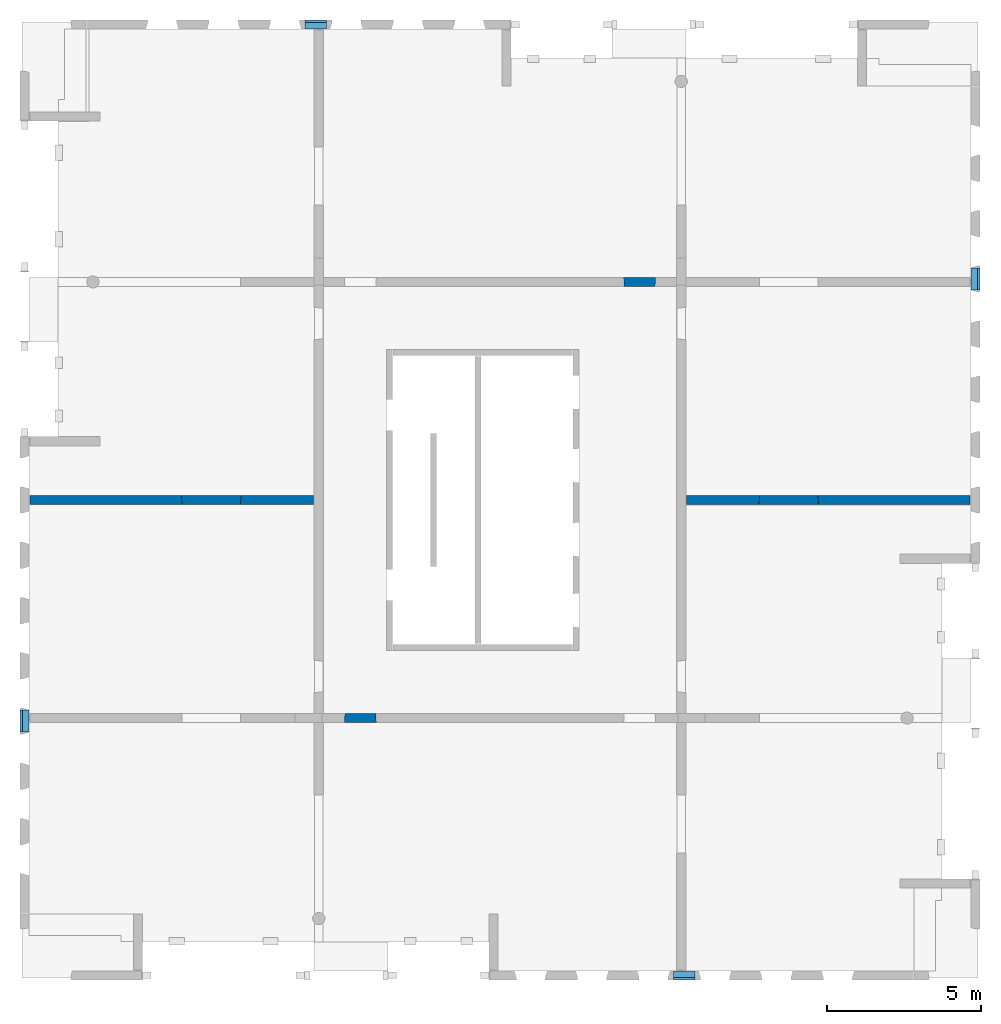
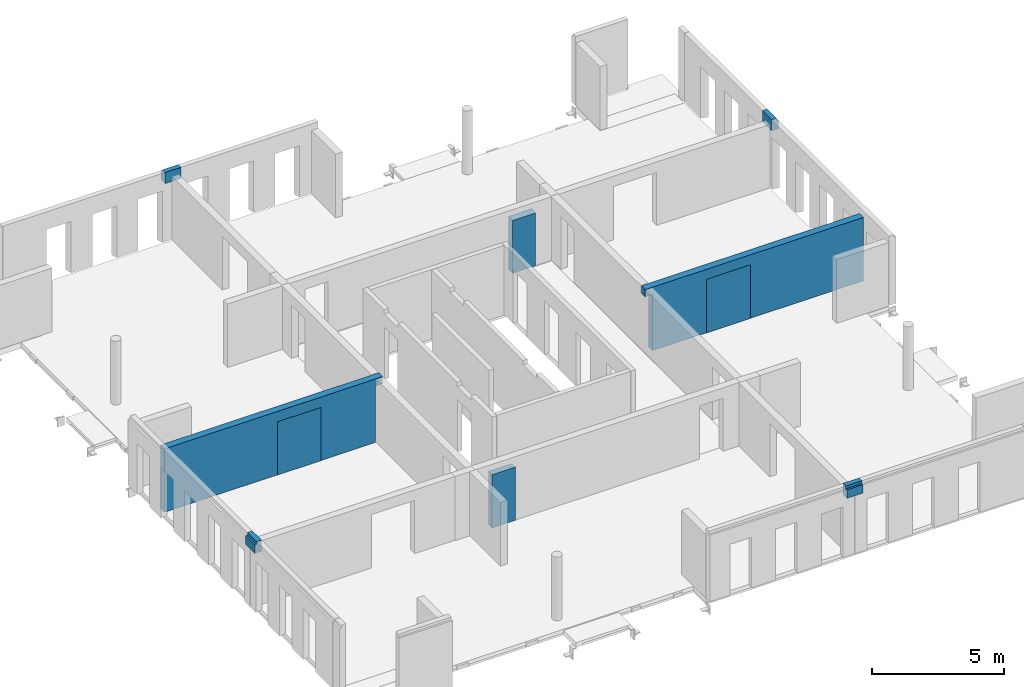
# One storey, part 5 of 6: 10 walls, 5 openings.
"""IFC2X3 building model written with IfcOpenShell, lengths in millimetres."""

import ifcopenshell
import ifcopenshell.guid

model = None  # the IFC model being written
_history = None  # IfcOwnerHistory: only IFC2X3 demands one
_inside = {}  # id of a spatial element -> (the spatial element, [elements in it])
_under = {}  # id of a project, library or spatial element -> (it, [spatial elements below it])
_declared = {}  # id of a project -> (the project, [libraries it declares])
_typed = {}  # id of a type object -> (the type object, [elements of that type])
_made_of = {}  # id of a material, layer set ... -> (it, [elements and type objects made of it])


def new_model(schema):
    """Start an empty IFC model of exactly this schema.

    Asked for "IFC4X3", IfcOpenShell would pick the latest addendum, in which some entities
    have other attributes; the version numbers below select the first issue.
    IFC2X3 requires an IfcOwnerHistory on every rooted entity: one is made here for all.
    """
    global model, _history
    if schema == "IFC4X3":
        model = ifcopenshell.file(schema_version=(4, 3, 0, 0))
    else:
        model = ifcopenshell.file(schema=schema)
    _inside.clear()
    _under.clear()
    _declared.clear()
    _typed.clear()
    _made_of.clear()
    _history = None
    if model.schema == "IFC2X3":
        org = make("IfcOrganization", Name="unknown")
        user = make(
            "IfcPersonAndOrganization",
            ThePerson=make("IfcPerson", FamilyName="unknown"),
            TheOrganization=org,
        )
        app = make(
            "IfcApplication",
            ApplicationDeveloper=org,
            Version="unknown",
            ApplicationFullName="unknown",
            ApplicationIdentifier="unknown",
        )
        _history = make(
            "IfcOwnerHistory",
            OwningUser=user,
            OwningApplication=app,
            ChangeAction="ADDED",
            CreationDate=0,
        )
    return model


def make(cls, **values):
    """One entity of the class cls with the attributes given. An attribute that is None is left unset."""
    return model.create_entity(
        cls, **{name: value for name, value in values.items() if value is not None}
    )


def entity(cls, *values):
    """Any entity or typed value of the class cls, its attributes in the order of the schema. None: left unset."""
    e = model.create_entity(cls)
    for i, value in enumerate(values):
        if value is not None:
            e[i] = value
    return e


def rooted(cls, **values):
    """An entity with a GlobalId (a new one), such as an element, a storey or a relation."""
    return make(cls, GlobalId=ifcopenshell.guid.new(), OwnerHistory=_history, **values)


def si_unit(unit_type, name, prefix=None):
    """IfcSIUnit, for example si_unit("LENGTHUNIT", "METRE", prefix="MILLI")."""
    return make("IfcSIUnit", UnitType=unit_type, Prefix=prefix, Name=name)


def converted_unit(unit_type, name, factor, base, dimensions=None, offset=None):
    """IfcConversionBasedUnit, such as the inch: factor (a typed value) times the base unit."""
    return make(
        "IfcConversionBasedUnit"
        if offset is None
        else "IfcConversionBasedUnitWithOffset",
        ConversionOffset=offset,
        Dimensions=None
        if dimensions is None
        else entity("IfcDimensionalExponents", *dimensions),
        UnitType=unit_type,
        Name=name,
        ConversionFactor=make(
            "IfcMeasureWithUnit", ValueComponent=factor, UnitComponent=base
        ),
    )


def derived_unit(unit_type, elements):
    """IfcDerivedUnit: a product of units, each with its exponent."""
    return make(
        "IfcDerivedUnit",
        Elements=[
            make("IfcDerivedUnitElement", Unit=unit, Exponent=power)
            for unit, power in elements
        ],
        UnitType=unit_type,
    )


def assignment(units):
    """IfcUnitAssignment: the units of a project."""
    return None if units is None else make("IfcUnitAssignment", Units=units)


def point(xyz):
    """IfcCartesianPoint."""
    return None if xyz is None else make("IfcCartesianPoint", Coordinates=xyz)


def direction(xyz):
    """IfcDirection."""
    return None if xyz is None else make("IfcDirection", DirectionRatios=xyz)


def frame(location, z_axis=None, x_axis=None):
    """IfcAxis2Placement3D, a coordinate frame: its origin and axes. An axis left out is left unset."""
    return make(
        "IfcAxis2Placement3D",
        Location=point(location),
        Axis=direction(z_axis),
        RefDirection=direction(x_axis),
    )


def frame_2d(location, x_axis=None):
    """IfcAxis2Placement2D, a coordinate frame in the plane: its origin and x axis."""
    return make(
        "IfcAxis2Placement2D", Location=point(location), RefDirection=direction(x_axis)
    )


def origin():
    """The frame at (0, 0, 0) with its axes left unset."""
    return frame((0.0, 0.0, 0.0))


def origin_2d_with_axis():
    """The frame at (0, 0) in the plane with the x axis (1, 0) written out."""
    return frame_2d((0.0, 0.0), x_axis=(1.0, 0.0))


def place(relative_to, where):
    """IfcLocalPlacement: puts the frame where relative to a parent placement (None: the world)."""
    return make(
        "IfcLocalPlacement", PlacementRelTo=relative_to, RelativePlacement=where
    )


def context(
    kind, dimensions, precision=None, world=None, true_north=None, identifier=None
):
    """IfcGeometricRepresentationContext, for example the 3D "Model" context."""
    return make(
        "IfcGeometricRepresentationContext",
        ContextIdentifier=identifier,
        ContextType=kind,
        CoordinateSpaceDimension=dimensions,
        Precision=precision,
        WorldCoordinateSystem=world,
        TrueNorth=true_north,
    )


def subcontext(parent, identifier, kind, view, scale=None):
    """IfcGeometricRepresentationSubContext, for example "Body" below "Model"."""
    return make(
        "IfcGeometricRepresentationSubContext",
        ContextIdentifier=identifier,
        ContextType=kind,
        ParentContext=parent,
        TargetScale=scale,
        TargetView=view,
    )


def project(units=None, contexts=None):
    """IfcProject with its units and contexts."""
    return rooted(
        "IfcProject",
        Name="project",
        RepresentationContexts=contexts,
        UnitsInContext=assignment(units),
    )


def spatial(cls, under=None, at=None, **own):
    """A site, building, storey or space (cls), placed at a placement, below another one or the project."""
    s = rooted(cls, ObjectPlacement=at, **own)
    if under is not None:
        _under.setdefault(under.id(), (under, []))[1].append(s)
    return s


def polyline(points):
    """IfcPolyline through the points."""
    return make("IfcPolyline", Points=[point(p) for p in points])


def profile(cls, at=None, kind="AREA", **sizes):
    """A parametric profile (cls). Its sizes go by their IFC names, for example OverallWidth=200.0."""
    return make(cls, ProfileType=kind, Position=at, **sizes)


def rectangle(**sizes):
    """IfcRectangleProfileDef."""
    return profile("IfcRectangleProfileDef", **sizes)


def outline(outer, holes=None, kind="AREA"):
    """IfcArbitraryClosedProfileDef: a profile drawn as a closed curve; with holes, ...WithVoids."""
    if holes is None:
        return make("IfcArbitraryClosedProfileDef", ProfileType=kind, OuterCurve=outer)
    return make(
        "IfcArbitraryProfileDefWithVoids",
        ProfileType=kind,
        OuterCurve=outer,
        InnerCurves=holes,
    )


def extrude(swept, where, along, depth):
    """IfcExtrudedAreaSolid: the profile swept, set in the frame where, extruded along a direction by depth."""
    return make(
        "IfcExtrudedAreaSolid",
        SweptArea=swept,
        Position=where,
        ExtrudedDirection=direction(along),
        Depth=depth,
    )


def faces_of(points, faces, orient=None, outer=None):
    """IfcFace entities. A face is a list of loops; a loop is a list of indices into points, from 0.

    orient and outer hold one flag for each loop. By default every Orientation is true, the
    first loop of a face is its IfcFaceOuterBound and the others are IfcFaceBound.
    """
    made = []
    for i, loops in enumerate(faces):
        bounds = []
        for j, loop in enumerate(loops):
            is_outer = j == 0 if outer is None else outer[i][j]
            bounds.append(
                make(
                    "IfcFaceOuterBound" if is_outer else "IfcFaceBound",
                    Bound=make("IfcPolyLoop", Polygon=[points[k] for k in loop]),
                    Orientation=True if orient is None else orient[i][j],
                )
            )
        made.append(make("IfcFace", Bounds=bounds))
    return made


def faceted_brep(points, faces, orient=None, outer=None, voids=None):
    """IfcFacetedBrep: a solid bounded by flat faces; with voids (closed shells), ...WithVoids."""
    shared = [point(p) for p in points]
    hull = make("IfcClosedShell", CfsFaces=faces_of(shared, faces, orient, outer))
    if voids is None:
        return make("IfcFacetedBrep", Outer=hull)
    return make(
        "IfcFacetedBrepWithVoids",
        Outer=hull,
        Voids=[
            make(cls, CfsFaces=faces_of(shared, fs, o, b)) for cls, fs, o, b in voids
        ],
    )


def shape(context_of_items, identifier, shape_type, items):
    """IfcShapeRepresentation: the items that make up one representation, for example the "Body"."""
    return make(
        "IfcShapeRepresentation",
        ContextOfItems=context_of_items,
        RepresentationIdentifier=identifier,
        RepresentationType=shape_type,
        Items=items,
    )


def material(Name=None, Category=None):
    """IfcMaterial."""
    return make("IfcMaterial", Name=Name, Category=Category)


def layer(
    of_material, thickness, ventilated=None, Name=None, Category=None, Priority=None
):
    """IfcMaterialLayer: one layer of a wall or slab, of a material (None: an air gap)."""
    return make(
        "IfcMaterialLayer",
        Material=of_material,
        LayerThickness=thickness,
        IsVentilated=ventilated,
        Name=Name,
        Category=Category,
        Priority=Priority,
    )


def layer_set(layers, Name=None):
    """IfcMaterialLayerSet."""
    return make("IfcMaterialLayerSet", MaterialLayers=layers, LayerSetName=Name)


def layer_usage(for_layer_set, set_direction, sense, offset, extent=None):
    """IfcMaterialLayerSetUsage: how a layer set lies in its element."""
    return make(
        "IfcMaterialLayerSetUsage",
        ForLayerSet=for_layer_set,
        LayerSetDirection=set_direction,
        DirectionSense=sense,
        OffsetFromReferenceLine=offset,
        ReferenceExtent=extent,
    )


def made_of(thing, what):
    """Note that an element or type object is made of a material, layer set ...; save() writes the relation."""
    if what is not None:
        _made_of.setdefault(what.id(), (what, []))[1].append(thing)
    return thing


def type_object(cls, material=None, **own):
    """A type object (cls), such as IfcWallType, which elements share."""
    return made_of(rooted(cls, **own), material)


def element(
    cls,
    number,
    at=None,
    inside=None,
    cuts=None,
    type_object=None,
    material=None,
    context=None,
    identifier="Body",
    shape_type=None,
    held_by="IfcProductDefinitionShape",
    body=None,
    shapes=None,
    **own,
):
    """One element of the class cls, such as IfcWall. Its Tag is "e" and its number.

    at: its placement. inside: the storey or other place that contains it. cuts: it is an
    opening in that element (IfcRelVoidsElement). A single representation is given by context,
    identifier, shape_type and body (its items); several are given by shapes. held_by: the class
    of the entity that holds the representations. save() writes the other relations.
    """
    e = rooted(cls, Tag="e%d" % number, ObjectPlacement=at, **own)
    if body is not None:
        shapes = [shape(context, identifier, shape_type, body)]
    if shapes is not None:
        e.Representation = make(held_by, Representations=shapes)
    if inside is not None:
        _inside.setdefault(inside.id(), (inside, []))[1].append(e)
    if cuts is not None:
        rooted(
            "IfcRelVoidsElement", RelatingBuildingElement=cuts, RelatedOpeningElement=e
        )
    if type_object is not None:
        _typed.setdefault(type_object.id(), (type_object, []))[1].append(e)
    return made_of(e, material)


def aggregate(whole, parts):
    """IfcRelAggregates: a whole, such as a stair, and the parts it consists of."""
    return rooted("IfcRelAggregates", RelatingObject=whole, RelatedObjects=parts)


def save(model, path):
    """Write the relations noted so far, then the file.

    IfcRelAggregates (storeys below a building ...), IfcRelContainedInSpatialStructure (elements
    in a storey), IfcRelDefinesByType, IfcRelAssociatesMaterial and IfcRelDeclares: one each for
    every whole, place, type object, material and project.
    """
    for whole, parts in _under.values():
        aggregate(whole, parts)
    for where, things in _inside.values():
        rooted(
            "IfcRelContainedInSpatialStructure",
            RelatedElements=things,
            RelatingStructure=where,
        )
    for kind, things in _typed.values():
        rooted("IfcRelDefinesByType", RelatedObjects=things, RelatingType=kind)
    for what, things in _made_of.values():
        rooted("IfcRelAssociatesMaterial", RelatedObjects=things, RelatingMaterial=what)
    for by, libraries in _declared.values():
        rooted("IfcRelDeclares", RelatingContext=by, RelatedDefinitions=libraries)
    model.write(path)


model = new_model("IFC2X3")

# Units and contexts
model_context = context("Model", 3, precision=0.01, world=origin(), true_north=direction((6.12303176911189e-17, 1.0)))
body_context = subcontext(model_context, "Body", "Model", "MODEL_VIEW")
ifc_project = project(units=[si_unit("LENGTHUNIT", "METRE", prefix="MILLI"), si_unit("AREAUNIT", "SQUARE_METRE"), si_unit("VOLUMEUNIT", "CUBIC_METRE"), converted_unit("PLANEANGLEUNIT", "DEGREE", entity("IfcRatioMeasure", 0.0174532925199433), si_unit("PLANEANGLEUNIT", "RADIAN"), dimensions=[0, 0, 0, 0, 0, 0, 0]), si_unit("MASSUNIT", "GRAM", prefix="KILO"), derived_unit("MASSDENSITYUNIT", [(si_unit("MASSUNIT", "GRAM", prefix="KILO"), 1), (si_unit("LENGTHUNIT", "METRE"), -3)]), si_unit("TIMEUNIT", "SECOND"), si_unit("FREQUENCYUNIT", "HERTZ"), si_unit("THERMODYNAMICTEMPERATUREUNIT", "DEGREE_CELSIUS"), derived_unit("THERMALTRANSMITTANCEUNIT", [(si_unit("MASSUNIT", "GRAM", prefix="KILO"), 1), (si_unit("THERMODYNAMICTEMPERATUREUNIT", "KELVIN"), -1), (si_unit("TIMEUNIT", "SECOND"), -3)]), derived_unit("VOLUMETRICFLOWRATEUNIT", [(si_unit("LENGTHUNIT", "METRE"), 3), (si_unit("TIMEUNIT", "SECOND"), -1)]), si_unit("ELECTRICCURRENTUNIT", "AMPERE"), si_unit("ELECTRICVOLTAGEUNIT", "VOLT"), si_unit("POWERUNIT", "WATT"), si_unit("FORCEUNIT", "NEWTON", prefix="KILO"), si_unit("ILLUMINANCEUNIT", "LUX"), si_unit("LUMINOUSFLUXUNIT", "LUMEN"), si_unit("LUMINOUSINTENSITYUNIT", "CANDELA"), derived_unit("USERDEFINED", [(si_unit("MASSUNIT", "GRAM", prefix="KILO"), -1), (si_unit("LENGTHUNIT", "METRE"), -2), (si_unit("TIMEUNIT", "SECOND"), 3), (si_unit("LUMINOUSFLUXUNIT", "LUMEN"), 1)]), derived_unit("LINEARVELOCITYUNIT", [(si_unit("LENGTHUNIT", "METRE"), 1), (si_unit("TIMEUNIT", "SECOND"), -1)]), si_unit("PRESSUREUNIT", "PASCAL"), derived_unit("USERDEFINED", [(si_unit("LENGTHUNIT", "METRE"), -2), (si_unit("MASSUNIT", "GRAM", prefix="KILO"), 1), (si_unit("TIMEUNIT", "SECOND"), -2)])], contexts=[model_context])

# Site, building, storey
site_placement = place(None, origin())
site = spatial("IfcSite", under=ifc_project, at=site_placement, Name="Default", CompositionType="ELEMENT")
building_placement = place(site_placement, origin())
building = spatial("IfcBuilding", under=site, at=building_placement, Name="niet gebruiken", CompositionType="ELEMENT")
storey_placement = place(building_placement, frame((0.0, 0.0, 161820.0)))
storey = spatial("IfcBuildingStorey", under=building, at=storey_placement, Name="52 tweeënvijftigste verdieping", CompositionType="ELEMENT", Elevation=161820.0)

# Walls
ifc_material_1 = material(Name="NLRS_f2_beton prefab")
ifc_layer_1 = layer(ifc_material_1, 300.0)
ifc_layer_set_1 = layer_set([ifc_layer_1], Name="Basic Wall:NLRS_22.21_WA_beton prefab d=300_gen")
wall_type_1 = type_object("IfcWallType", Name="Basic Wall:NLRS_22.21_WA_beton prefab d=300_gen", PredefinedType="STANDARD", material=ifc_layer_set_1)
wall_1_placement = place(storey_placement, frame((157060.0, 17500.0, -60.0), z_axis=(0.0, 0.0, 1.0), x_axis=(-1.0, 0.0, 0.0)))
element("IfcWall", 1, at=wall_1_placement, inside=storey, type_object=wall_type_1, Name="Basic Wall:NLRS_22.21_WA_beton prefab d=300_gen", ObjectType="Basic Wall:NLRS_22.21_WA_beton prefab d=300_gen", context=body_context, shape_type="Brep", body=[
    faceted_brep([(9560.0, -150.0, 2610.0), (9560.0, -150.0, 2940.0), (0.0, -150.0, 2940.0), (0.0, -150.0, 0.0), (4960.0, -150.0, 0.0), (4960.0, -150.0, 2460.0), (6860.0, -150.0, 2460.0), (6860.0, -150.0, 0.0), (9240.0, -150.0, 0.0), (9240.0, -150.0, 2610.0), (9560.0, 150.0, 2940.0), (9560.0, 150.0, 2610.0), (9240.0, 150.0, 2610.0), (9240.0, 150.0, 0.0), (6878.0, 150.0, 0.0), (6878.0, 150.0, 2478.0), (4942.0, 150.0, 2478.0), (4942.0, 150.0, 0.0), (0.0, 150.0, 0.0), (0.0, 150.0, 2940.0)], [[[0, 1, 2, 3, 4, 5, 6, 7, 8, 9]], [[10, 11, 12, 13, 14, 15, 16, 17, 18, 19]], [[4, 3, 18, 17]], [[1, 0, 11, 10]], [[2, 1, 10, 19]], [[3, 2, 19, 18]], [[9, 8, 13, 12]], [[0, 9, 12, 11]], [[6, 15, 14, 7]], [[16, 5, 4, 17]], [[15, 6, 5, 16]], [[8, 7, 14, 13]]]),
])
wall_2_placement = place(storey_placement, frame((126440.0, 17500.0, -60.0)))
element("IfcWall", 2, at=wall_2_placement, inside=storey, type_object=wall_type_1, Name="Basic Wall:NLRS_22.21_WA_beton prefab d=300_gen", ObjectType="Basic Wall:NLRS_22.21_WA_beton prefab d=300_gen", context=body_context, shape_type="Brep", body=[
    faceted_brep([(9560.0, -150.0, 2610.0), (9560.0, -150.0, 2940.0), (0.0, -150.0, 2940.0), (0.0, -150.0, 0.0), (4960.0, -150.0, 0.0), (4960.0, -150.0, 2460.0), (6860.0, -150.0, 2460.0), (6860.0, -150.0, 0.0), (9240.0, -150.0, 0.0), (9240.0, -150.0, 2610.0), (9560.0, 150.0, 2940.0), (9560.0, 150.0, 2610.0), (9240.0, 150.0, 2610.0), (9240.0, 150.0, 0.0), (6878.0, 150.0, 0.0), (6878.0, 150.0, 2478.0), (4942.0, 150.0, 2478.0), (4942.0, 150.0, 0.0), (0.0, 150.0, 0.0), (0.0, 150.0, 2940.0)], [[[0, 1, 2, 3, 4, 5, 6, 7, 8, 9]], [[10, 11, 12, 13, 14, 15, 16, 17, 18, 19]], [[4, 3, 18, 17]], [[1, 0, 11, 10]], [[2, 1, 10, 19]], [[3, 2, 19, 18]], [[9, 8, 13, 12]], [[0, 9, 12, 11]], [[6, 15, 14, 7]], [[16, 5, 4, 17]], [[15, 6, 5, 16]], [[8, 7, 14, 13]]]),
])

# Wall, opening
ifc_material_2 = material(Name="NLRS_f2_beton ihwg")
ifc_layer_2 = layer(ifc_material_2, 300.0)
ifc_layer_set_2 = layer_set([ifc_layer_2], Name="Basic Wall:NLRS_21.21_WA_beton ihwg d=300_gen")
ifc_layer_usage_1 = layer_usage(ifc_layer_set_2, "AXIS2", "NEGATIVE", 150.0)
wall_type_2 = type_object("IfcWallType", Name="Basic Wall:NLRS_21.21_WA_beton ihwg d=300_gen", PredefinedType="STANDARD", material=ifc_layer_set_2)
wall_3_placement = place(storey_placement, frame((135395.0, 32980.0, 2635.0)))
wall_3 = element("IfcWallStandardCase", 3, at=wall_3_placement, inside=storey, type_object=wall_type_2, material=ifc_layer_usage_1, Name="Basic Wall:NLRS_21.21_WA_beton ihwg d=300_gen", ObjectType="Basic Wall:NLRS_21.21_WA_beton ihwg d=300_gen", context=body_context, shape_type="SweptSolid", body=[
    extrude(rectangle(XDim=710.000000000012, YDim=300.000000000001, at=frame_2d((355.000000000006, 0.0), x_axis=(-1.0, 0.0))), origin(), (0.0, 0.0, 1.0), 514.999999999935),
])
opening_1_placement = place(wall_3_placement, origin())
element("IfcOpeningElement", 4, at=opening_1_placement, cuts=wall_3, Name="Basic Wall:NLRS_21.21_WA_beton ihwg d=300_gen", ObjectType="Recess", context=body_context, shape_type="SweptSolid", body=[
    extrude(rectangle(XDim=124.999999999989, YDim=27940.0, at=origin_2d_with_axis()), frame((6355.0, 66.0, 452.499999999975), z_axis=(0.0, 1.0, 0.0), x_axis=(0.0, 0.0, -1.0)), (0.0, 0.0, 1.0), 83.9999999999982),
])

# Wall, openings
ifc_layer_usage_2 = layer_usage(ifc_layer_set_2, "AXIS2", "NEGATIVE", 150.0)
wall_4_placement = place(storey_placement, frame((148105.0, 2020.0, 2635.0), z_axis=(0.0, 0.0, 1.0), x_axis=(-1.0, 0.0, 0.0)))
wall_4 = element("IfcWallStandardCase", 5, at=wall_4_placement, inside=storey, type_object=wall_type_2, material=ifc_layer_usage_2, Name="Basic Wall:NLRS_21.21_WA_beton ihwg d=300_gen", ObjectType="Basic Wall:NLRS_21.21_WA_beton ihwg d=300_gen", context=body_context, shape_type="SweptSolid", body=[
    extrude(rectangle(XDim=710.000000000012, YDim=300.0, at=frame_2d((355.000000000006, -1.4210854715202e-14), x_axis=(-1.0, 0.0))), origin(), (0.0, 0.0, 1.0), 514.999999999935),
])
opening_2_placement = place(wall_4_placement, origin())
element("IfcOpeningElement", 6, at=opening_2_placement, cuts=wall_4, Name="Basic Wall:NLRS_21.21_WA_beton ihwg d=300_gen", ObjectType="Opening", context=body_context, shape_type="SweptSolid", body=[
    extrude(outline(polyline([(-1961.66666666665, -4851.6666666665), (1238.33333333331, -4851.6666666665), (1238.33333333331, 2253.33333333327), (723.333333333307, 2253.33333333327), (723.333333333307, 2598.33333333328), (-1961.66666666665, 2598.33333333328), (-1961.66666666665, -4851.6666666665)])), frame((-2253.33333333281, -302.4, -723.333333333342), z_axis=(0.0, 1.0, 0.0), x_axis=(0.0, 0.0, 1.0)), (0.0, 0.0, 1.0), 604.8),
])
opening_3_placement = place(wall_4_placement, origin())
element("IfcOpeningElement", 7, at=opening_3_placement, cuts=wall_4, Name="Basic Wall:NLRS_21.21_WA_beton ihwg d=300_gen", ObjectType="Recess", context=body_context, shape_type="SweptSolid", body=[
    extrude(rectangle(XDim=124.999999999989, YDim=27940.0, at=origin_2d_with_axis()), frame((6355.0, 66.0, 452.500000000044), z_axis=(0.0, 1.0, 0.0), x_axis=(0.0, 0.0, -1.0)), (0.0, 0.0, 1.0), 84.0000000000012),
])

# Wall, opening
ifc_layer_usage_3 = layer_usage(ifc_layer_set_2, "AXIS2", "NEGATIVE", 150.0)
wall_5_placement = place(storey_placement, frame((126270.0, 9945.0, 2635.0), z_axis=(0.0, 0.0, 1.0), x_axis=(0.0, 1.0, 0.0)))
wall_5 = element("IfcWallStandardCase", 8, at=wall_5_placement, inside=storey, type_object=wall_type_2, material=ifc_layer_usage_3, Name="Basic Wall:NLRS_21.21_WA_beton ihwg d=300_gen", ObjectType="Basic Wall:NLRS_21.21_WA_beton ihwg d=300_gen", context=body_context, shape_type="SweptSolid", body=[
    extrude(rectangle(XDim=709.999999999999, YDim=300.000000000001, at=frame_2d((354.999999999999, 0.0), x_axis=(-1.0, 0.0))), origin(), (0.0, 0.0, 1.0), 514.999999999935),
])
opening_4_placement = place(wall_5_placement, origin())
element("IfcOpeningElement", 9, at=opening_4_placement, cuts=wall_5, Name="Basic Wall:NLRS_21.21_WA_beton ihwg d=300_gen", ObjectType="Recess", context=body_context, shape_type="SweptSolid", body=[
    extrude(rectangle(XDim=124.999999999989, YDim=27940.0, at=frame_2d((0.0, 2.72848410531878e-12), x_axis=(1.0, 0.0))), frame((7555.0, 66.0, 452.499999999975), z_axis=(0.0, 1.0, 0.0), x_axis=(0.0, 0.0, -1.0)), (0.0, 0.0, 1.0), 84.0000000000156),
])

ifc_layer_usage_4 = layer_usage(ifc_layer_set_2, "AXIS2", "NEGATIVE", 150.0)
wall_6_placement = place(storey_placement, frame((157230.0, 25055.0, 2635.0), z_axis=(0.0, 0.0, 1.0), x_axis=(0.0, -1.0, 0.0)))
wall_6 = element("IfcWallStandardCase", 10, at=wall_6_placement, inside=storey, type_object=wall_type_2, material=ifc_layer_usage_4, Name="Basic Wall:NLRS_21.21_WA_beton ihwg d=300_gen", ObjectType="Basic Wall:NLRS_21.21_WA_beton ihwg d=300_gen", context=body_context, shape_type="SweptSolid", body=[
    extrude(rectangle(XDim=709.999999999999, YDim=300.000000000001, at=frame_2d((354.999999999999, 9.9475983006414e-13), x_axis=(-1.0, 0.0))), origin(), (0.0, 0.0, 1.0), 514.999999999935),
])
opening_5_placement = place(wall_6_placement, origin())
element("IfcOpeningElement", 11, at=opening_5_placement, cuts=wall_6, Name="Basic Wall:NLRS_21.21_WA_beton ihwg d=300_gen", ObjectType="Recess", context=body_context, shape_type="SweptSolid", body=[
    extrude(rectangle(XDim=124.999999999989, YDim=27940.0, at=frame_2d((0.0, 4.54747350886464e-12), x_axis=(1.0, 0.0))), frame((7555.0, 66.0, 452.50000000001), z_axis=(0.0, 1.0, 0.0), x_axis=(0.0, 0.0, -1.0)), (0.0, 0.0, 1.0), 83.9999999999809),
])

# Walls
ifc_material_3 = material(Name="NLRS_f2_beton prefab dichtstorten")
wall_type_3 = type_object("IfcWallType", Name="Parametric Wall:NLRS_22.21_WA_beton prefab d=500 1900x2470_gen", PredefinedType="NOTDEFINED", material=ifc_material_3)
wall_7_placement = place(storey_placement, frame((131382.0, 17350.0, -70.0)))
element("IfcWall", 12, at=wall_7_placement, inside=storey, type_object=wall_type_3, material=ifc_material_3, Name="Parametric Wall:NLRS_22.21_WA_beton prefab d=500 1900x2470_gen", ObjectType="Parametric Wall:NLRS_22.21_WA_beton prefab d=500 1900x2470_gen", context=body_context, shape_type="Brep", body=[
    faceted_brep([(1936.0, 300.0, 2488.0), (1936.0, 300.0, 10.0), (1936.0, 300.0, 0.0), (0.0, 300.0, 0.0), (0.0, 300.0, 10.0), (0.0, 300.0, 2488.0), (1918.0, 0.0, 2470.0), (18.0, 0.0, 2470.0), (18.0, 0.0, 10.0), (18.0, 0.0, 0.0), (1918.0, 0.0, 0.0), (1918.0, 0.0, 10.0)], [[[0, 1, 2, 3, 4, 5]], [[6, 7, 8, 9, 10, 11]], [[6, 11, 10, 2, 1, 0]], [[10, 9, 3, 2]], [[9, 8, 7, 5, 4, 3]], [[7, 6, 0, 5]]]),
])
wall_8_placement = place(storey_placement, frame((150182.0, 17350.0, -70.0)))
element("IfcWall", 13, at=wall_8_placement, inside=storey, type_object=wall_type_3, material=ifc_material_3, Name="Parametric Wall:NLRS_22.21_WA_beton prefab d=500 1900x2470_gen", ObjectType="Parametric Wall:NLRS_22.21_WA_beton prefab d=500 1900x2470_gen", context=body_context, shape_type="Brep", body=[
    faceted_brep([(0.0, 0.0, 2488.0), (0.0, 0.0, 10.0), (0.0, 0.0, 0.0), (1936.0, 0.0, 0.0), (1936.0, 0.0, 10.0), (1936.0, 0.0, 2488.0), (18.0, 300.0, 2470.0), (1918.0, 300.0, 2470.0), (1918.0, 300.0, 10.0), (1918.0, 300.0, 0.0), (18.0, 300.0, 0.0), (18.0, 300.0, 10.0)], [[[0, 1, 2, 3, 4, 5]], [[6, 7, 8, 9, 10, 11]], [[6, 11, 10, 2, 1, 0]], [[10, 9, 3, 2]], [[9, 8, 7, 5, 4, 3]], [[7, 6, 0, 5]]]),
])
wall_type_4 = type_object("IfcWallType", Name="Parametric Wall:NLRS_22.21_WA_beton prefab d=500 1006x2448_gen", PredefinedType="NOTDEFINED", material=ifc_material_3)
wall_9_placement = place(storey_placement, frame((136682.0, 10250.0, -70.0)))
element("IfcWall", 14, at=wall_9_placement, inside=storey, type_object=wall_type_4, material=ifc_material_3, Name="Parametric Wall:NLRS_22.21_WA_beton prefab d=500 1006x2448_gen", ObjectType="Parametric Wall:NLRS_22.21_WA_beton prefab d=500 1006x2448_gen", context=body_context, shape_type="Brep", body=[
    faceted_brep([(0.0, 0.0, 2466.0), (0.0, 0.0, 10.0), (0.0, 0.0, 0.0), (1042.0, 0.0, 0.0), (1042.0, 0.0, 10.0), (1042.0, 0.0, 2466.0), (18.0, 300.0, 2448.0), (1024.0, 300.0, 2448.0), (1024.0, 300.0, 10.0), (1024.0, 300.0, 0.0), (18.0, 300.0, 0.0), (18.0, 300.0, 10.0)], [[[0, 1, 2, 3, 4, 5]], [[6, 7, 8, 9, 10, 11]], [[6, 11, 10, 2, 1, 0]], [[10, 9, 3, 2]], [[9, 8, 7, 5, 4, 3]], [[7, 6, 0, 5]]]),
])
wall_10_placement = place(storey_placement, frame((145776.0, 24450.0, -70.0)))
element("IfcWall", 15, at=wall_10_placement, inside=storey, type_object=wall_type_4, material=ifc_material_3, Name="Parametric Wall:NLRS_22.21_WA_beton prefab d=500 1006x2448_gen", ObjectType="Parametric Wall:NLRS_22.21_WA_beton prefab d=500 1006x2448_gen", context=body_context, shape_type="Brep", body=[
    faceted_brep([(1042.0, 300.0, 2466.0), (1042.0, 300.0, 10.0), (1042.0, 300.0, 0.0), (0.0, 300.0, 0.0), (0.0, 300.0, 10.0), (0.0, 300.0, 2466.0), (1024.0, 0.0, 2448.0), (18.0, 0.0, 2448.0), (18.0, 0.0, 10.0), (18.0, 0.0, 0.0), (1024.0, 0.0, 0.0), (1024.0, 0.0, 10.0)], [[[0, 1, 2, 3, 4, 5]], [[6, 7, 8, 9, 10, 11]], [[6, 11, 10, 2, 1, 0]], [[10, 9, 3, 2]], [[9, 8, 7, 5, 4, 3]], [[7, 6, 0, 5]]]),
])

save(model, "model.ifc")
